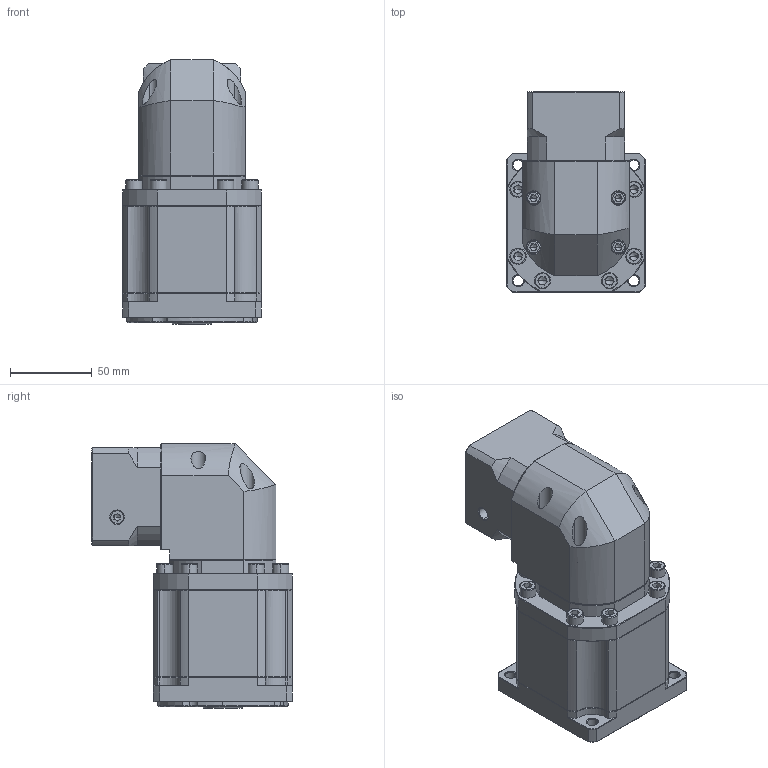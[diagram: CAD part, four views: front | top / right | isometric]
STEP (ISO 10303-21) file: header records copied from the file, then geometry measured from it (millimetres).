
FILE_DESCRIPTION (( 'STEP AP214' ), '1' );
FILE_NAME ('ZBR090-K15-L3-P2-8-30-46-M4.step', '2023-08-19T04:03:35', ( '' ), ( '' ), 'SwSTEP 2.0', 'SolidWorks 2016', '' );
FILE_SCHEMA (( 'AUTOMOTIVE_DESIGN' ));
Length unit declared in the file: millimetre
Products named in the file (1): ZBR090-K15-L3-P2-8-30-46-M4
Bounding box: 85 x 122.7 x 162 mm (x, y, z)
Volume: 911098.8 mm3; surface area: 105546.9 mm2
Topology: 5 solids, 5 shells, 2432 faces, 6495 edges, 4169 vertices
Faces by surface type: plane 1169, bspline 480, cylinder 402, cone 361, torus 20
Entity records: 141136 total; most frequent: CARTESIAN_POINT 57344, ORIENTED_EDGE 12918, DIRECTION 10185, EDGE_CURVE 6459, VERTEX_POINT 4169, VECTOR 3969, LINE 3969, AXIS2_PLACEMENT_3D 3108
